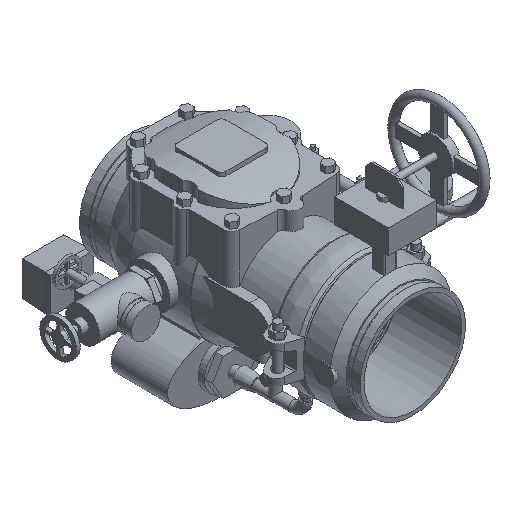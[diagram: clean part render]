
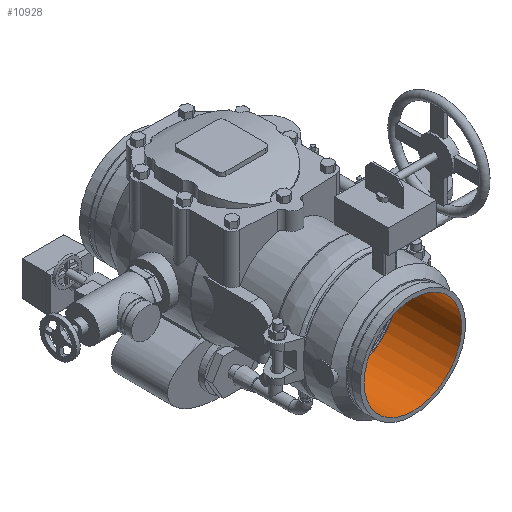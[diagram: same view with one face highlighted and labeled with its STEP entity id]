
A CAD part, isometric view. The second image highlights one B-rep face of the part: STEP entity #10928.
In plain terms, the highlighted cylindrical face has radius 101.359 mm (diameter 202.717 mm), a full revolution.
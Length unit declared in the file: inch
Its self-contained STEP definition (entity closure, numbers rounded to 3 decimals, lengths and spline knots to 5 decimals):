
#900=FACE_OUTER_BOUND('',#1516,.T.);
#1516=EDGE_LOOP('',(#7585,#7586,#7587,#7588,#7589,#7590));
#2269=LINE('',#16857,#3188);
#3188=VECTOR('',#13280,3.9905);
#4019=CIRCLE('',#11809,3.9905);
#4020=CIRCLE('',#11810,3.9905);
#4021=CIRCLE('',#11811,3.9905);
#4022=CIRCLE('',#11812,3.9905);
#4576=VERTEX_POINT('',#16853);
#4577=VERTEX_POINT('',#16854);
#4578=VERTEX_POINT('',#16856);
#4579=VERTEX_POINT('',#16858);
#5724=EDGE_CURVE('',#4576,#4577,#4019,.T.);
#5725=EDGE_CURVE('',#4577,#4578,#2269,.T.);
#5726=EDGE_CURVE('',#4579,#4578,#4020,.T.);
#5727=EDGE_CURVE('',#4578,#4579,#4021,.T.);
#5728=EDGE_CURVE('',#4577,#4576,#4022,.T.);
#7585=ORIENTED_EDGE('',*,*,#5724,.T.);
#7586=ORIENTED_EDGE('',*,*,#5725,.T.);
#7587=ORIENTED_EDGE('',*,*,#5726,.F.);
#7588=ORIENTED_EDGE('',*,*,#5727,.F.);
#7589=ORIENTED_EDGE('',*,*,#5725,.F.);
#7590=ORIENTED_EDGE('',*,*,#5728,.T.);
#10064=CYLINDRICAL_SURFACE('',#11808,3.9905);
#10928=ADVANCED_FACE('',(#900),#10064,.F.);
#11808=AXIS2_PLACEMENT_3D('',#16852,#13276,#13277);
#11809=AXIS2_PLACEMENT_3D('',#16855,#13278,#13279);
#11810=AXIS2_PLACEMENT_3D('',#16859,#13281,#13282);
#11811=AXIS2_PLACEMENT_3D('',#16860,#13283,#13284);
#11812=AXIS2_PLACEMENT_3D('',#16861,#13285,#13286);
#13276=DIRECTION('center_axis',(1.,0.,0.));
#13277=DIRECTION('ref_axis',(0.,1.,0.));
#13278=DIRECTION('center_axis',(1.,0.,0.));
#13279=DIRECTION('ref_axis',(0.,0.,-1.));
#13280=DIRECTION('',(-1.,0.,0.));
#13281=DIRECTION('center_axis',(1.,0.,0.));
#13282=DIRECTION('ref_axis',(0.,0.,-1.));
#13283=DIRECTION('center_axis',(1.,0.,0.));
#13284=DIRECTION('ref_axis',(0.,0.,-1.));
#13285=DIRECTION('center_axis',(1.,0.,0.));
#13286=DIRECTION('ref_axis',(0.,0.,-1.));
#16852=CARTESIAN_POINT('Origin',(0.335,0.,
0.));
#16853=CARTESIAN_POINT('',(3.,0.,-3.9905));
#16854=CARTESIAN_POINT('',(3.,-3.9905,0.));
#16855=CARTESIAN_POINT('Origin',(3.,0.,0.));
#16856=CARTESIAN_POINT('',(-2.33,-3.9905,0.));
#16857=CARTESIAN_POINT('',(0.335,-3.9905,0.));
#16858=CARTESIAN_POINT('',(-2.33,3.9905,0.));
#16859=CARTESIAN_POINT('Origin',(-2.33,0.,0.));
#16860=CARTESIAN_POINT('Origin',(-2.33,0.,0.));
#16861=CARTESIAN_POINT('Origin',(3.,0.,0.));
